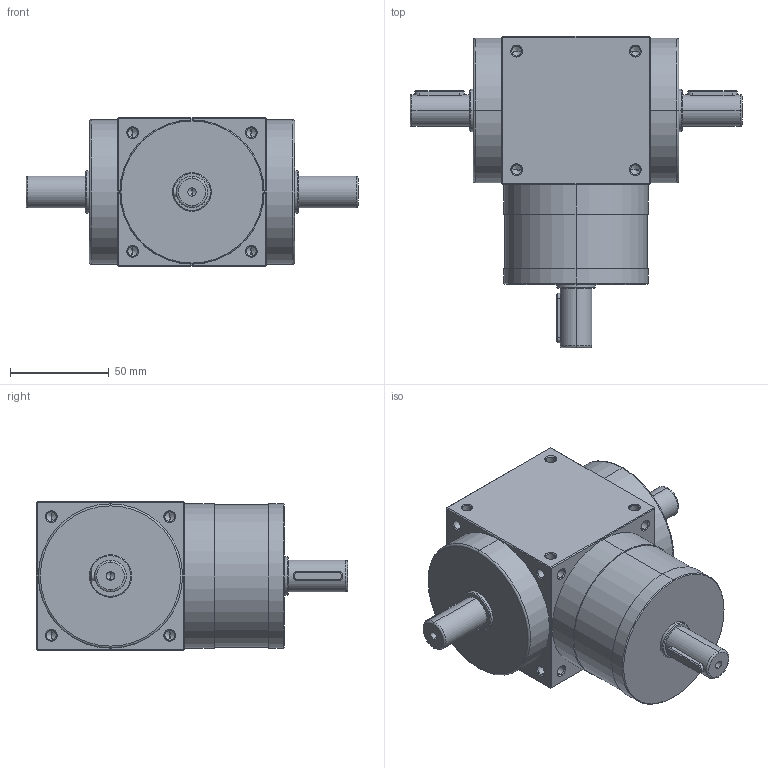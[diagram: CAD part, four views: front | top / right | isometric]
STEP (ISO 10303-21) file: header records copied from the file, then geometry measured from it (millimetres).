
FILE_DESCRIPTION (( 'STEP AP214' ), '1' );
FILE_NAME ('AT075-L-L1.STEP', '2020-04-09T07:22:09', ( 'User' ), ( 'Far123' ), 'SwSTEP 2.0', 'SolidWorks 2015', '' );
FILE_SCHEMA (( 'AUTOMOTIVE_DESIGN' ));
Length unit declared in the file: millimetre
Products named in the file (1): AT075-L-L1
Bounding box: 168 x 157.5 x 75 mm (x, y, z)
Volume: 765510.4 mm3; surface area: 61128.1 mm2
Topology: 1 solids, 1 shells, 308 faces, 784 edges, 433 vertices
Faces by surface type: cylinder 130, cone 116, plane 52, torus 10
Entity records: 9990 total; most frequent: CARTESIAN_POINT 2138, ORIENTED_EDGE 1460, DIRECTION 1422, EDGE_CURVE 730, AXIS2_PLACEMENT_3D 549, VERTEX_POINT 433, EDGE_LOOP 349, VECTOR 324
